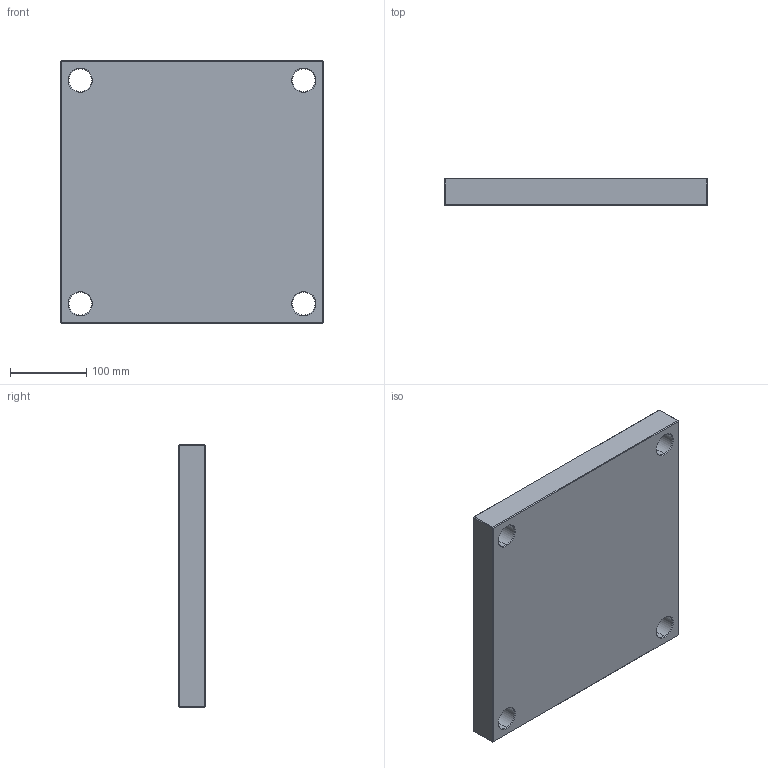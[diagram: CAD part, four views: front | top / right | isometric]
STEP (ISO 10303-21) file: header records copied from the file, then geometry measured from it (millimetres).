
FILE_DESCRIPTION (( 'STEP AP214' ), '1' );
FILE_NAME ('PC-346x346x36.STEP', '2020-04-21T16:46:17', ( 'August' ), ( '' ), 'SwSTEP 2.0', 'SolidWorks 2018', '' );
FILE_SCHEMA (( 'AUTOMOTIVE_DESIGN' ));
Length unit declared in the file: millimetre
Products named in the file (1): PC-346x346x36
Bounding box: 346 x 36 x 346 mm (x, y, z)
Volume: 4187340.1 mm3; surface area: 298999.6 mm2
Topology: 1 solids, 1 shells, 82 faces, 168 edges, 96 vertices
Faces by surface type: plane 34, cone 24, cylinder 24
Entity records: 2170 total; most frequent: DIRECTION 406, CARTESIAN_POINT 347, ORIENTED_EDGE 336, EDGE_CURVE 168, AXIS2_PLACEMENT_3D 155, EDGE_LOOP 98, VECTOR 96, LINE 96
